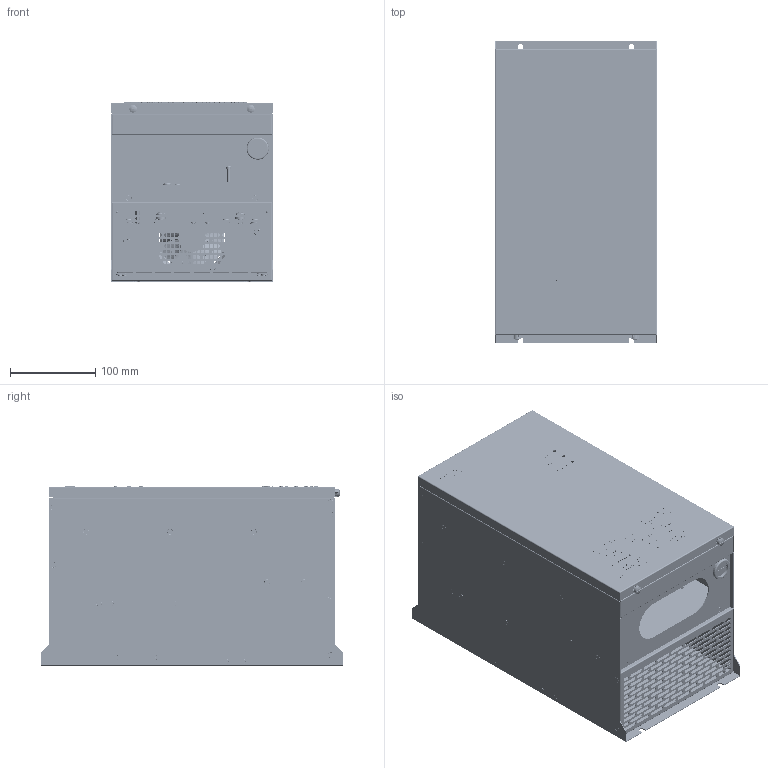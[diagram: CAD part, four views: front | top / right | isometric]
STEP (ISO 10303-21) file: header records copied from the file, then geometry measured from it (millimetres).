
FILE_DESCRIPTION(/* description */ (''),/* implementation_level */ '2;1');
FILE_NAME(/* name */ 'C:\Работа\Текущие задачи\2022.08.19 Торм модули\BU30-3D.stp',/* time_stamp */ '2022-08-19T12:00:07+03:00',/* author */ ('U390257'),/* organization */ (''),/* preprocessor_version */ 'ST-DEVELOPER v18.1',/* originating_system */ 'Autodesk Inventor 2020',/* authorisation */ '');
FILE_SCHEMA (('AUTOMOTIVE_DESIGN { 1 0 10303 214 3 1 1 }'));
Products named in the file (48): BU30-3D; BU30AG0020G1-B0000_ASM; BU30AG0020G1-D0000_ASM; BU30AG0020G1-H0001; BU30AG0020G1-A0000_ASM; F08025N40D024_SM100; BU30AG0020G1-P0000_ASM; BU30AG0020G1-P0001_ASM; BU30AG0020G1-P0002_ASM; BU30AG0020G1-P0002PRT; BU30AG0020G1-P0003_ASM; BU30AG0020G1-P0003PRT; BU30AG0020G1-P0004_ASM; BU30AG0020G1-P0004PRT; BU30AG0020G1-P0005_ASM; BU30AG0020G1-P0005PRT; BU30AG0020G1-P0006_ASM; BU30AG0020G1-P0006PRT; BU30AG0020G1-P0007; BU30AG0020G1-P0008_ASM; BU30AG0020G1-P0008PRT; BU30AG0020G1-P0009_ASM; BU30AG0020G1-P0009PRT; BU30AG0020G1-P0010; D3X8_GB12616; BU30AG0020G1-P0011_ASM; BU30AG0020G1-P0011PRT; BU30AG0020G1-P0011SY; SO-3_5M3-6; S-M5-1; BU30AG0020G1-P0012_ASM; BU30AG0020G1-P0012PRT; Part_2; BU30AG0020G1-P0013_ASM; BU30AG0020G1-P0013PRT; BU30AG0020G1-P0014_ASM; BU30AG0020G1-P0014PRT; S-M4-1; BU30AG0020G1-B000S_ASM; LOOP-22-330426190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
Assembly tree (173 placements, depth 6):
  BU30-3D
    BU30AG0020G1-B0000_ASM
      BU30AG0020G1-D0000_ASM
        BU30AG0020G1-H0001
        BU30AG0020G1-A0000_ASM
          F08025N40D024_SM100
      BU30AG0020G1-P0000_ASM
        BU30AG0020G1-P0001_ASM
          BU30AG0020G1-P0002_ASM
            BU30AG0020G1-P0002PRT
          BU30AG0020G1-P0003_ASM
            BU30AG0020G1-P0003PRT
            S-M4-1  x2
          BU30AG0020G1-P0004_ASM
            BU30AG0020G1-P0004PRT
            S-M4-1  x2
          BU30AG0020G1-P0005_ASM
            BU30AG0020G1-P0005PRT
            S-M5-1  x2
            S-M4-1  x2
          BU30AG0020G1-P0006_ASM
            BU30AG0020G1-P0006PRT
            S-M4-1  x2
          BU30AG0020G1-P0007  x2
          BU30AG0020G1-P0008_ASM  x2
            BU30AG0020G1-P0008PRT
            S-M4-1
          BU30AG0020G1-P0009_ASM  x2
            BU30AG0020G1-P0009PRT
            S-M4-1
          BU30AG0020G1-P0010  x2
          D3X8_GB12616  x42
        BU30AG0020G1-P0011_ASM
          BU30AG0020G1-P0011PRT
          BU30AG0020G1-P0011SY
          SO-3_5M3-6  x4
          S-M5-1  x2
        BU30AG0020G1-P0012_ASM
          BU30AG0020G1-P0012PRT
          Part_2
        BU30AG0020G1-P0013_ASM
          BU30AG0020G1-P0013PRT
          S-M4-1  x6
        BU30AG0020G1-P0014_ASM
          BU30AG0020G1-P0014PRT
          S-M4-1  x4
      BU30AG0020G1-B000S_ASM
        LOOP-22-330426190
        M4X10_YMB_S  x2
        M3X8_GB9074_8  x11
        M5X12_GB9074_8  x10
        M4X10_GB9074_8  x26
        M6X16_GB9074_8  x7
        27_AC60G000-P0003  x2
        M4X35_GB9074_8  x4
        M3X16_GB9074_8
Bounding box: 190 x 355 x 210.2 mm (x, y, z)
Volume: 849795.8 mm3; surface area: 1322162 mm2
Topology: 475 solids, 557 shells, 11146 faces, 29750 edges, 19889 vertices
Faces by surface type: plane 7427, bspline 1785, cylinder 1523, cone 245, torus 103, sphere 63
Full cylindrical faces by diameter (mm): 2.5 x31, 3 x65, 3.2 x42, 3.5 x38, 3.6 x24, 4 x38, 4.2 x11, 4.39 x4, 4.5 x14, 4.99 x8, 5 x23, 5.38 x24, 5.39 x12, 5.4 x40, 5.5 x18, 5.9 x24, 6 x24, 6.38 x4, 6.4 x4, 6.7 x4, 6.9 x30, 7 x42, 7.9 x24, 8.7 x4, 8.9 x10, 9 x40, 9.58 x2, 10 x10, 10.4 x7, 10.5 x9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
Entity records: 250397 total; most frequent: CARTESIAN_POINT 70545, ORIENTED_EDGE 39435, DIRECTION 30885, EDGE_CURVE 19815, LINE 13627, VECTOR 13627, VERTEX_POINT 13060, AXIS2_PLACEMENT_3D 8629
